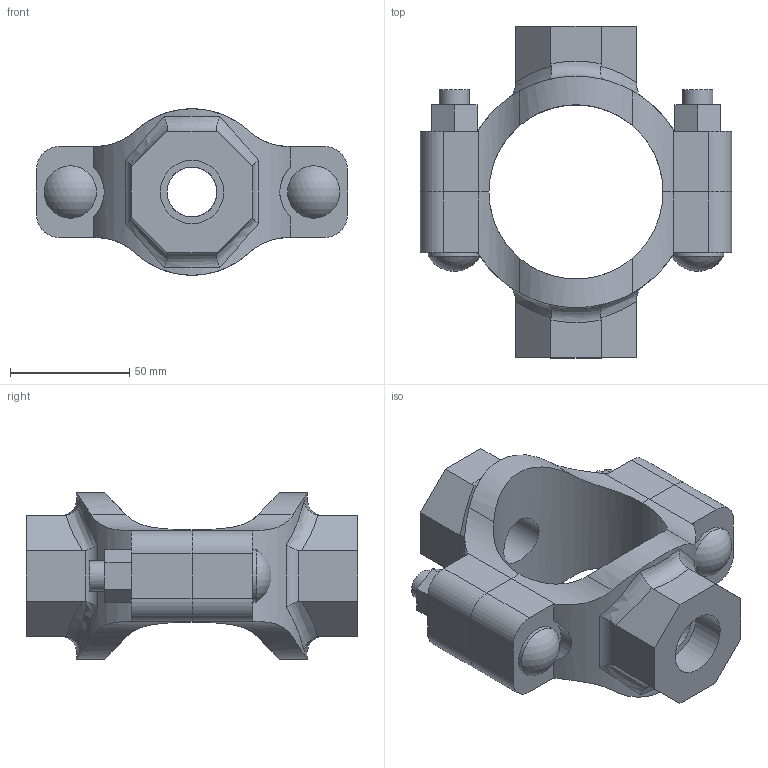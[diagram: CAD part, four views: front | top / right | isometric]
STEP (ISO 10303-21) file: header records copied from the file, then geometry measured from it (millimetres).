
FILE_DESCRIPTION(/* description */ ('VIC MECH-T BRANCH OUTLET CROSS STYLE 920N (THD)','CAx-IF Rec.Pracs.---Representation and Presentation of Product Manufacturing Information (PMI)---4.0---2014-10-13'),/* implementation_level */ '2;1');
FILE_NAME(/* name */ 'C:\Users\Vjadhav\AppData\Roaming\Autodesk\ApplicationPlugins\Back Up\Victaulic_IPS_Mechanical-Cross Outlet_Style 920N (FPT)\Victaulic_IPS_Mechanical-Cross Outlet_02.5x0.75x0.75 (65x20x20).stp',/* time_stamp */ '2020-08-06T18:56:31+05:00',/* author */ ('Vjadhav'),/* organization */ ('Victaulic'),/* preprocessor_version */ 'ST-DEVELOPER v17.2',/* originating_system */ 'Autodesk Inventor 2019',/* authorisation */ '');
FILE_SCHEMA (('AP242_MANAGED_MODEL_BASED_3D_ENGINEERING_MIM_LF { 1 0 10303 442 1 1 4 }'));
Length unit declared in the file: inch
Products named in the file (3): 920NT-02.5x0.75x0.75; 920NT-02.5x0.75; 920NT-02.5x0.75_1
Assembly tree (2 placements, depth 2):
  920NT-02.5x0.75x0.75
    920NT-02.5x0.75
    920NT-02.5x0.75_1
Bounding box: 130.56 x 139.19 x 69.84 mm (x, y, z)
Volume: 298823.1 mm3; surface area: 67461.9 mm2
Topology: 2 solids, 2 shells, 132 faces, 350 edges, 236 vertices
Faces by surface type: plane 68, cylinder 50, bspline 8, torus 4, sphere 2
Full cylindrical faces by diameter (mm): 12.7 x4, 20.93 x2, 21.982 x2, 26.67 x2
Entity records: 5054 total; most frequent: CARTESIAN_POINT 1541, ORIENTED_EDGE 700, DIRECTION 648, EDGE_CURVE 350, VERTEX_POINT 236, AXIS2_PLACEMENT_3D 231, LINE 186, VECTOR 186
